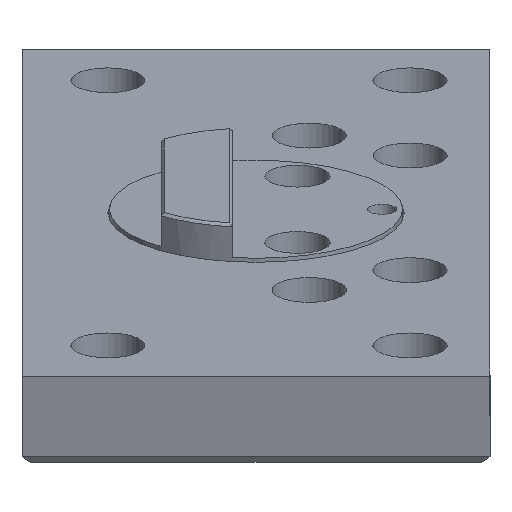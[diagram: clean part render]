
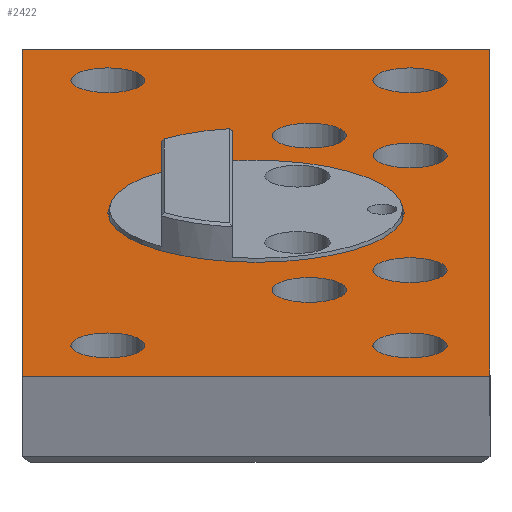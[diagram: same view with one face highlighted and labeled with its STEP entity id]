
A CAD part, front view. The second image highlights one B-rep face of the part: STEP entity #2422.
In plain terms, the highlighted planar face has unit normal (0, -0.334, 0.943) as drawn and (0, -1, 0) by its records, which use the part's own axes.
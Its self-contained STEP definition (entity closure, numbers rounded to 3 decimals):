
#67 = FACE_BOUND ( 'NONE', #1870, .T. ) ;
#84 = ORIENTED_EDGE ( 'NONE', *, *, #2113, .T. ) ;
#88 = DIRECTION ( 'NONE',  ( 0., 1., 0. ) ) ;
#105 = CARTESIAN_POINT ( 'NONE',  ( 39.5, 0., 82.5 ) ) ;
#111 = CARTESIAN_POINT ( 'NONE',  ( 9., 0., 45.25 ) ) ;
#120 = FACE_BOUND ( 'NONE', #216, .T. ) ;
#169 = EDGE_LOOP ( 'NONE', ( #1881 ) ) ;
#177 = EDGE_CURVE ( 'NONE', #1372, #1372, #2085, .T. ) ;
#191 = DIRECTION ( 'NONE',  ( 0., 1., 0. ) ) ;
#216 = EDGE_LOOP ( 'NONE', ( #84 ) ) ;
#265 = DIRECTION ( 'NONE',  ( 0., 0., 1. ) ) ;
#274 = DIRECTION ( 'NONE',  ( 0., 0., 1. ) ) ;
#278 = EDGE_CURVE ( 'NONE', #452, #452, #2894, .T. ) ;
#288 = ORIENTED_EDGE ( 'NONE', *, *, #2652, .T. ) ;
#295 = DIRECTION ( 'NONE',  ( 0., 0., 1. ) ) ;
#298 = CIRCLE ( 'NONE', #2526, 6.25 ) ;
#302 = VECTOR ( 'NONE', #2664, 1000. ) ;
#330 = CIRCLE ( 'NONE', #1955, 6.25 ) ;
#335 = DIRECTION ( 'NONE',  ( 0., 0., 1. ) ) ;
#340 = LINE ( 'NONE', #1041, #302 ) ;
#442 = DIRECTION ( 'NONE',  ( 0., 0., 1. ) ) ;
#452 = VERTEX_POINT ( 'NONE', #1908 ) ;
#551 = PLANE ( 'NONE',  #1781 ) ;
#562 = EDGE_LOOP ( 'NONE', ( #288 ) ) ;
#589 = LINE ( 'NONE', #2453, #1884 ) ;
#599 = CARTESIAN_POINT ( 'NONE',  ( 26., 0., -60.75 ) ) ;
#708 = AXIS2_PLACEMENT_3D ( 'NONE', #2013, #2620, #442 ) ;
#750 = VERTEX_POINT ( 'NONE', #1215 ) ;
#768 = FACE_BOUND ( 'NONE', #2853, .T. ) ;
#780 = FACE_BOUND ( 'NONE', #1292, .T. ) ;
#808 = CARTESIAN_POINT ( 'NONE',  ( -39.5, 0., 82.5 ) ) ;
#814 = CARTESIAN_POINT ( 'NONE',  ( 26., 0., 35.25 ) ) ;
#944 = CIRCLE ( 'NONE', #1040, 6.25 ) ;
#946 = CARTESIAN_POINT ( 'NONE',  ( -25., 0., -60.75 ) ) ;
#947 = VERTEX_POINT ( 'NONE', #2015 ) ;
#975 = ORIENTED_EDGE ( 'NONE', *, *, #2024, .T. ) ;
#987 = ORIENTED_EDGE ( 'NONE', *, *, #2614, .F. ) ;
#1010 = FACE_BOUND ( 'NONE', #1354, .T. ) ;
#1018 = ORIENTED_EDGE ( 'NONE', *, *, #2193, .T. ) ;
#1021 = FACE_BOUND ( 'NONE', #562, .T. ) ;
#1037 = DIRECTION ( 'NONE',  ( 0., 1., 0. ) ) ;
#1040 = AXIS2_PLACEMENT_3D ( 'NONE', #2987, #191, #1928 ) ;
#1041 = CARTESIAN_POINT ( 'NONE',  ( 39.5, 0., 82.5 ) ) ;
#1056 = VERTEX_POINT ( 'NONE', #2658 ) ;
#1084 = CARTESIAN_POINT ( 'NONE',  ( 26., 0., 67. ) ) ;
#1099 = ORIENTED_EDGE ( 'NONE', *, *, #2302, .T. ) ;
#1114 = EDGE_LOOP ( 'NONE', ( #1099, #987, #1262, #2230 ) ) ;
#1118 = DIRECTION ( 'NONE',  ( 0., 0., 1. ) ) ;
#1143 = CIRCLE ( 'NONE', #2383, 25. ) ;
#1158 = EDGE_LOOP ( 'NONE', ( #2958 ) ) ;
#1215 = CARTESIAN_POINT ( 'NONE',  ( -39.5, 0., 82.5 ) ) ;
#1262 = ORIENTED_EDGE ( 'NONE', *, *, #2552, .F. ) ;
#1292 = EDGE_LOOP ( 'NONE', ( #1368 ) ) ;
#1331 = VECTOR ( 'NONE', #2160, 1000. ) ;
#1354 = EDGE_LOOP ( 'NONE', ( #1893 ) ) ;
#1368 = ORIENTED_EDGE ( 'NONE', *, *, #278, .T. ) ;
#1372 = VERTEX_POINT ( 'NONE', #946 ) ;
#1450 = VERTEX_POINT ( 'NONE', #111 ) ;
#1523 = DIRECTION ( 'NONE',  ( 0., 0., -1. ) ) ;
#1618 = DIRECTION ( 'NONE',  ( 1., 0., 0. ) ) ;
#1627 = CARTESIAN_POINT ( 'NONE',  ( 9., 0., -32.75 ) ) ;
#1694 = DIRECTION ( 'NONE',  ( 0., 1., 0. ) ) ;
#1705 = VERTEX_POINT ( 'NONE', #599 ) ;
#1750 = DIRECTION ( 'NONE',  ( 0., 1., 0. ) ) ;
#1768 = CARTESIAN_POINT ( 'NONE',  ( 0., 0., 25. ) ) ;
#1781 = AXIS2_PLACEMENT_3D ( 'NONE', #808, #1750, #2441 ) ;
#1845 = LINE ( 'NONE', #2004, #2482 ) ;
#1861 = CARTESIAN_POINT ( 'NONE',  ( 0., 0., 0. ) ) ;
#1870 = EDGE_LOOP ( 'NONE', ( #1018 ) ) ;
#1871 = EDGE_LOOP ( 'NONE', ( #2655 ) ) ;
#1881 = ORIENTED_EDGE ( 'NONE', *, *, #2418, .T. ) ;
#1884 = VECTOR ( 'NONE', #1523, 1000. ) ;
#1886 = DIRECTION ( 'NONE',  ( 0., 1., 0. ) ) ;
#1893 = ORIENTED_EDGE ( 'NONE', *, *, #2135, .T. ) ;
#1908 = CARTESIAN_POINT ( 'NONE',  ( 26., 0., -22.75 ) ) ;
#1928 = DIRECTION ( 'NONE',  ( 0., 0., 1. ) ) ;
#1938 = CARTESIAN_POINT ( 'NONE',  ( 26., 0., 73.25 ) ) ;
#1955 = AXIS2_PLACEMENT_3D ( 'NONE', #2661, #88, #335 ) ;
#1959 = FACE_OUTER_BOUND ( 'NONE', #1114, .T. ) ;
#1974 = FACE_BOUND ( 'NONE', #1871, .T. ) ;
#2004 = CARTESIAN_POINT ( 'NONE',  ( -39.5, 0., 82.5 ) ) ;
#2010 = VERTEX_POINT ( 'NONE', #1768 ) ;
#2013 = CARTESIAN_POINT ( 'NONE',  ( 26., 0., -29. ) ) ;
#2015 = CARTESIAN_POINT ( 'NONE',  ( -39.5, 0., -82.5 ) ) ;
#2019 = CIRCLE ( 'NONE', #2582, 6.25 ) ;
#2024 = EDGE_CURVE ( 'NONE', #1450, #1450, #298, .T. ) ;
#2025 = DIRECTION ( 'NONE',  ( 0., 1., 0. ) ) ;
#2080 = CIRCLE ( 'NONE', #2386, 6.25 ) ;
#2085 = CIRCLE ( 'NONE', #2341, 6.25 ) ;
#2113 = EDGE_CURVE ( 'NONE', #2010, #2010, #1143, .T. ) ;
#2135 = EDGE_CURVE ( 'NONE', #1705, #1705, #944, .T. ) ;
#2160 = DIRECTION ( 'NONE',  ( 1., 0., 0. ) ) ;
#2193 = EDGE_CURVE ( 'NONE', #1056, #1056, #2019, .T. ) ;
#2195 = FACE_BOUND ( 'NONE', #169, .T. ) ;
#2230 = ORIENTED_EDGE ( 'NONE', *, *, #2323, .T. ) ;
#2302 = EDGE_CURVE ( 'NONE', #947, #2682, #2868, .T. ) ;
#2320 = VERTEX_POINT ( 'NONE', #1627 ) ;
#2323 = EDGE_CURVE ( 'NONE', #750, #947, #589, .T. ) ;
#2329 = VERTEX_POINT ( 'NONE', #105 ) ;
#2341 = AXIS2_PLACEMENT_3D ( 'NONE', #3061, #1886, #274 ) ;
#2379 = CARTESIAN_POINT ( 'NONE',  ( -25., 0., 67. ) ) ;
#2383 = AXIS2_PLACEMENT_3D ( 'NONE', #1861, #2550, #2822 ) ;
#2386 = AXIS2_PLACEMENT_3D ( 'NONE', #1084, #2025, #1118 ) ;
#2389 = DIRECTION ( 'NONE',  ( 0., 1., 0. ) ) ;
#2397 = CARTESIAN_POINT ( 'NONE',  ( -39.5, 0., -82.5 ) ) ;
#2403 = CARTESIAN_POINT ( 'NONE',  ( 9., 0., 39. ) ) ;
#2405 = VERTEX_POINT ( 'NONE', #814 ) ;
#2418 = EDGE_CURVE ( 'NONE', #2405, #2405, #2731, .T. ) ;
#2422 = ADVANCED_FACE ( 'NONE', ( #120, #2195, #768, #1021, #67, #780, #1010, #1974, #2705, #1959 ), #551, .F. ) ;
#2441 = DIRECTION ( 'NONE',  ( 0., 0., 1. ) ) ;
#2453 = CARTESIAN_POINT ( 'NONE',  ( -39.5, 0., 82.5 ) ) ;
#2482 = VECTOR ( 'NONE', #1618, 1000. ) ;
#2504 = VERTEX_POINT ( 'NONE', #1938 ) ;
#2518 = CARTESIAN_POINT ( 'NONE',  ( 39.5, 0., -82.5 ) ) ;
#2526 = AXIS2_PLACEMENT_3D ( 'NONE', #2403, #2389, #265 ) ;
#2533 = AXIS2_PLACEMENT_3D ( 'NONE', #2717, #1037, #295 ) ;
#2550 = DIRECTION ( 'NONE',  ( 0., 1., 0. ) ) ;
#2552 = EDGE_CURVE ( 'NONE', #750, #2329, #1845, .T. ) ;
#2582 = AXIS2_PLACEMENT_3D ( 'NONE', #2379, #1694, #2647 ) ;
#2614 = EDGE_CURVE ( 'NONE', #2329, #2682, #340, .T. ) ;
#2620 = DIRECTION ( 'NONE',  ( 0., 1., 0. ) ) ;
#2647 = DIRECTION ( 'NONE',  ( 0., 0., 1. ) ) ;
#2652 = EDGE_CURVE ( 'NONE', #2504, #2504, #2080, .T. ) ;
#2655 = ORIENTED_EDGE ( 'NONE', *, *, #2863, .T. ) ;
#2658 = CARTESIAN_POINT ( 'NONE',  ( -25., 0., 73.25 ) ) ;
#2661 = CARTESIAN_POINT ( 'NONE',  ( 9., 0., -39. ) ) ;
#2664 = DIRECTION ( 'NONE',  ( 0., 0., -1. ) ) ;
#2682 = VERTEX_POINT ( 'NONE', #2518 ) ;
#2705 = FACE_BOUND ( 'NONE', #1158, .T. ) ;
#2717 = CARTESIAN_POINT ( 'NONE',  ( 26., 0., 29. ) ) ;
#2731 = CIRCLE ( 'NONE', #2533, 6.25 ) ;
#2822 = DIRECTION ( 'NONE',  ( 0., 0., 1. ) ) ;
#2853 = EDGE_LOOP ( 'NONE', ( #975 ) ) ;
#2863 = EDGE_CURVE ( 'NONE', #2320, #2320, #330, .T. ) ;
#2868 = LINE ( 'NONE', #2397, #1331 ) ;
#2894 = CIRCLE ( 'NONE', #708, 6.25 ) ;
#2958 = ORIENTED_EDGE ( 'NONE', *, *, #177, .T. ) ;
#2987 = CARTESIAN_POINT ( 'NONE',  ( 26., 0., -67. ) ) ;
#3061 = CARTESIAN_POINT ( 'NONE',  ( -25., 0., -67. ) ) ;
